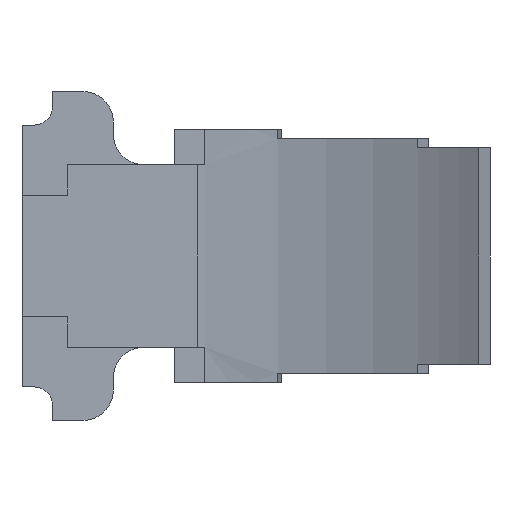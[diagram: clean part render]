
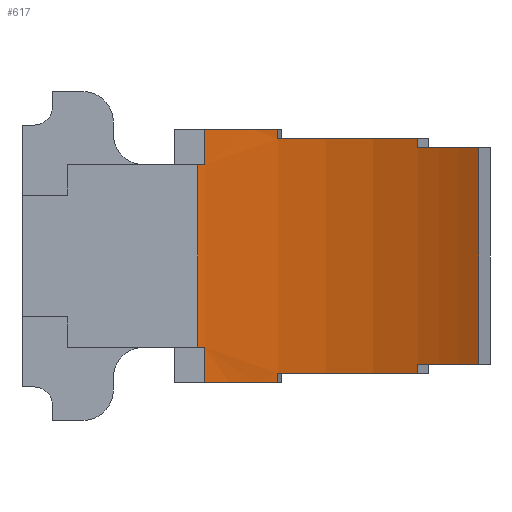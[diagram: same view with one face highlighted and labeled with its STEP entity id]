
A CAD part, left-side view. The second image highlights one B-rep face of the part: STEP entity #617.
In plain terms, the highlighted cylindrical face has radius 8 mm (diameter 16 mm), a partial arc.
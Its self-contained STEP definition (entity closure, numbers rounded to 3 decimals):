
#315=CARTESIAN_POINT('',(-8.547,2.967,5.575));
#316=VERTEX_POINT('',#315);
#323=CARTESIAN_POINT('',(-8.547,2.967,8.575));
#324=VERTEX_POINT('',#323);
#325=CARTESIAN_POINT('',(-8.547,2.967,8.575));
#326=DIRECTION('',(0.0,0.0,-1.0));
#327=VECTOR('',#326,3.);
#328=LINE('',#325,#327);
#329=EDGE_CURVE('',#324,#316,#328,.T.);
#483=CARTESIAN_POINT('',(-16.547,2.967,4.9));
#484=DIRECTION('',(0.0,0.0,1.0));
#485=DIRECTION('',(-0.302,-0.953,0.0));
#486=AXIS2_PLACEMENT_3D('',#483,#484,#485);
#487=CYLINDRICAL_SURFACE('',#486,8.);
#488=CARTESIAN_POINT('',(-8.655,1.656,5.15));
#489=VERTEX_POINT('',#488);
#490=CARTESIAN_POINT('',(-9.408,-0.644,5.15));
#491=VERTEX_POINT('',#490);
#492=CARTESIAN_POINT('',(-16.547,2.967,5.15));
#493=DIRECTION('',(0.0,0.0,-1.0));
#494=DIRECTION('',(0.892,-0.451,0.0));
#495=AXIS2_PLACEMENT_3D('',#492,#493,#494);
#496=CIRCLE('',#495,8.);
#497=EDGE_CURVE('',#489,#491,#496,.T.);
#498=ORIENTED_EDGE('',*,*,#497,.T.);
#499=CARTESIAN_POINT('',(-9.408,-0.644,5.3));
#500=VERTEX_POINT('',#499);
#501=CARTESIAN_POINT('',(-9.408,-0.644,5.15));
#502=DIRECTION('',(0.,0.,1.));
#503=VECTOR('',#502,0.15);
#504=LINE('',#501,#503);
#505=EDGE_CURVE('',#491,#500,#504,.T.);
#506=ORIENTED_EDGE('',*,*,#505,.T.);
#507=CARTESIAN_POINT('',(-10.009,-1.644,5.3));
#508=VERTEX_POINT('',#507);
#509=CARTESIAN_POINT('',(-16.547,2.967,5.3));
#510=DIRECTION('',(0.0,0.0,-1.0));
#511=DIRECTION('',(0.817,-0.576,0.0));
#512=AXIS2_PLACEMENT_3D('',#509,#510,#511);
#513=CIRCLE('',#512,8.);
#514=EDGE_CURVE('',#500,#508,#513,.T.);
#515=ORIENTED_EDGE('',*,*,#514,.T.);
#516=CARTESIAN_POINT('',(-10.009,-1.644,8.85));
#517=VERTEX_POINT('',#516);
#518=CARTESIAN_POINT('',(-10.009,-1.644,8.85));
#519=DIRECTION('',(0.0,0.0,-1.0));
#520=VECTOR('',#519,3.55);
#521=LINE('',#518,#520);
#522=EDGE_CURVE('',#517,#508,#521,.T.);
#523=ORIENTED_EDGE('',*,*,#522,.F.);
#524=CARTESIAN_POINT('',(-9.408,-0.644,8.85));
#525=VERTEX_POINT('',#524);
#526=CARTESIAN_POINT('',(-16.547,2.967,8.85));
#527=DIRECTION('',(0.0,0.0,-1.));
#528=DIRECTION('',(0.817,-0.576,0.0));
#529=AXIS2_PLACEMENT_3D('',#526,#527,#528);
#530=CIRCLE('',#529,8.);
#531=EDGE_CURVE('',#525,#517,#530,.T.);
#532=ORIENTED_EDGE('',*,*,#531,.F.);
#533=CARTESIAN_POINT('',(-9.408,-0.644,9.));
#534=VERTEX_POINT('',#533);
#535=CARTESIAN_POINT('',(-9.408,-0.644,9.));
#536=DIRECTION('',(0.,0.,-1.));
#537=VECTOR('',#536,0.15);
#538=LINE('',#535,#537);
#539=EDGE_CURVE('',#534,#525,#538,.T.);
#540=ORIENTED_EDGE('',*,*,#539,.F.);
#541=CARTESIAN_POINT('',(-8.655,1.656,9.));
#542=VERTEX_POINT('',#541);
#543=CARTESIAN_POINT('',(-16.547,2.967,9.0));
#544=DIRECTION('',(0.0,0.0,-1.));
#545=DIRECTION('',(0.892,-0.451,0.0));
#546=AXIS2_PLACEMENT_3D('',#543,#544,#545);
#547=CIRCLE('',#546,8.);
#548=EDGE_CURVE('',#542,#534,#547,.T.);
#549=ORIENTED_EDGE('',*,*,#548,.F.);
#550=CARTESIAN_POINT('',(-8.655,1.656,9.15));
#551=VERTEX_POINT('',#550);
#552=CARTESIAN_POINT('',(-8.655,1.656,9.));
#553=DIRECTION('',(0.,0.,1.));
#554=VECTOR('',#553,0.15);
#555=LINE('',#552,#554);
#556=EDGE_CURVE('',#542,#551,#555,.T.);
#557=ORIENTED_EDGE('',*,*,#556,.T.);
#558=CARTESIAN_POINT('',(-8.548,2.856,9.15));
#559=VERTEX_POINT('',#558);
#560=CARTESIAN_POINT('',(-16.547,2.967,9.15));
#561=DIRECTION('',(0.0,0.0,1.0));
#562=DIRECTION('',(1.,-0.014,0.0));
#563=AXIS2_PLACEMENT_3D('',#560,#561,#562);
#564=CIRCLE('',#563,8.);
#565=EDGE_CURVE('',#551,#559,#564,.T.);
#566=ORIENTED_EDGE('',*,*,#565,.T.);
#567=CARTESIAN_POINT('',(-8.548,2.856,8.575));
#568=VERTEX_POINT('',#567);
#569=CARTESIAN_POINT('',(-8.548,2.856,9.15));
#570=DIRECTION('',(0.,0.,-1.));
#571=VECTOR('',#570,0.575);
#572=LINE('',#569,#571);
#573=EDGE_CURVE('',#559,#568,#572,.T.);
#574=ORIENTED_EDGE('',*,*,#573,.T.);
#575=CARTESIAN_POINT('',(-8.548,2.856,8.575));
#576=CARTESIAN_POINT('',(-8.547,2.893,8.575));
#577=CARTESIAN_POINT('',(-8.547,2.93,8.575));
#578=CARTESIAN_POINT('',(-8.547,2.967,8.575));
#579=B_SPLINE_CURVE_WITH_KNOTS('',3,(#575,#576,#577,#578),.UNSPECIFIED.,.F.,.U.,(4,4),(0.,1.0),.UNSPECIFIED.);
#580=EDGE_CURVE('',#568,#324,#579,.T.);
#581=ORIENTED_EDGE('',*,*,#580,.T.);
#582=ORIENTED_EDGE('',*,*,#329,.T.);
#583=CARTESIAN_POINT('',(-8.548,2.856,5.575));
#584=VERTEX_POINT('',#583);
#585=CARTESIAN_POINT('',(-8.547,2.967,5.575));
#586=CARTESIAN_POINT('',(-8.547,2.93,5.575));
#587=CARTESIAN_POINT('',(-8.547,2.893,5.575));
#588=CARTESIAN_POINT('',(-8.548,2.856,5.575));
#589=B_SPLINE_CURVE_WITH_KNOTS('',3,(#585,#586,#587,#588),.UNSPECIFIED.,.F.,.U.,(4,4),(0.0,1.),.UNSPECIFIED.);
#590=EDGE_CURVE('',#316,#584,#589,.T.);
#591=ORIENTED_EDGE('',*,*,#590,.T.);
#592=CARTESIAN_POINT('',(-8.548,2.856,5.));
#593=VERTEX_POINT('',#592);
#594=CARTESIAN_POINT('',(-8.548,2.856,5.575));
#595=DIRECTION('',(0.,0.,-1.));
#596=VECTOR('',#595,0.575);
#597=LINE('',#594,#596);
#598=EDGE_CURVE('',#584,#593,#597,.T.);
#599=ORIENTED_EDGE('',*,*,#598,.T.);
#600=CARTESIAN_POINT('',(-8.655,1.656,5.));
#601=VERTEX_POINT('',#600);
#602=CARTESIAN_POINT('',(-16.547,2.967,5.0));
#603=DIRECTION('',(0.0,0.0,-1.0));
#604=DIRECTION('',(0.986,-0.164,0.0));
#605=AXIS2_PLACEMENT_3D('',#602,#603,#604);
#606=CIRCLE('',#605,8.);
#607=EDGE_CURVE('',#593,#601,#606,.T.);
#608=ORIENTED_EDGE('',*,*,#607,.T.);
#609=CARTESIAN_POINT('',(-8.655,1.656,5.));
#610=DIRECTION('',(0.,0.,1.));
#611=VECTOR('',#610,0.15);
#612=LINE('',#609,#611);
#613=EDGE_CURVE('',#601,#489,#612,.T.);
#614=ORIENTED_EDGE('',*,*,#613,.T.);
#615=EDGE_LOOP('',(#498,#506,#515,#523,#532,#540,#549,#557,#566,#574,#581,#582,#591,#599,#608,#614));
#616=FACE_OUTER_BOUND('',#615,.T.);
#617=ADVANCED_FACE('',(#616),#487,.F.);
